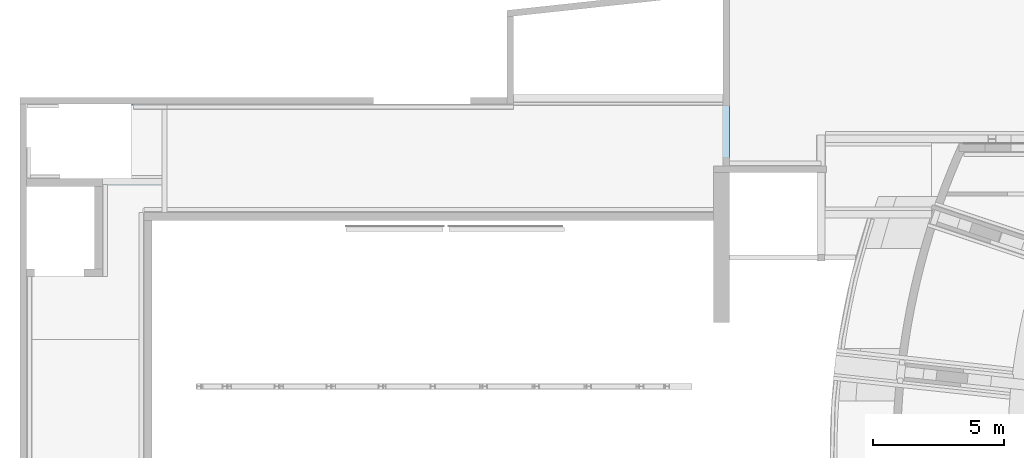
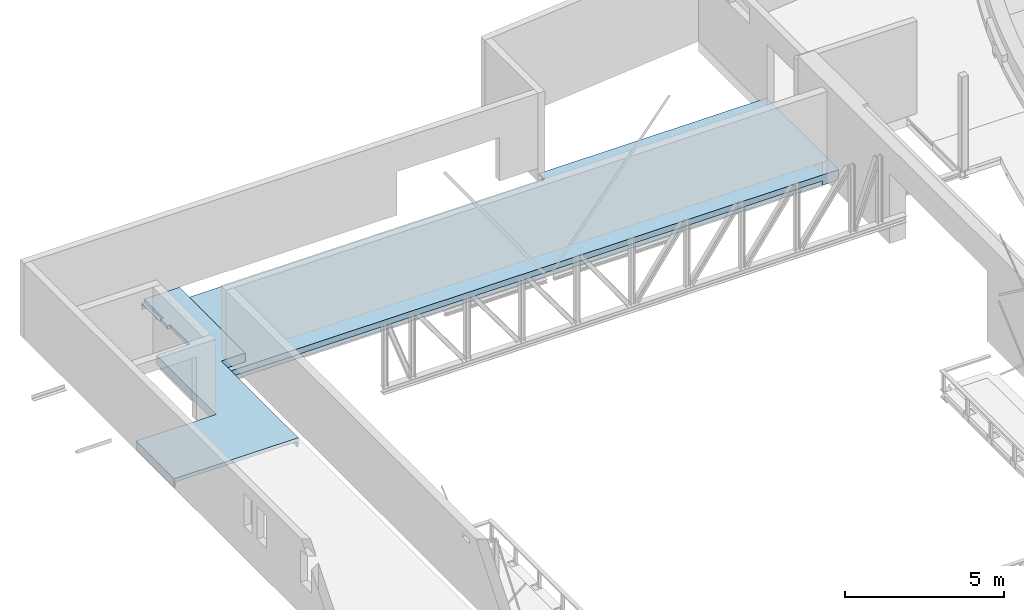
# One storey, part 62 of 68: 2 slabs.
"""IFC2X3 building model written with IfcOpenShell, lengths in millimetres."""

from ifc_helpers import new_model, entity, si_unit, converted_unit, derived_unit, direction, frame, origin, place, context, subcontext, project, spatial, faceted_brep, material, type_object, element, save


model = new_model("IFC2X3")

# Units and contexts
model_context = context("Model", 3, precision=0.01, world=origin(), true_north=direction((6.12303176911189e-17, 1.0)))
body_context = subcontext(model_context, "Body", "Model", "MODEL_VIEW")
ifc_project = project(units=[si_unit("LENGTHUNIT", "METRE", prefix="MILLI"), si_unit("AREAUNIT", "SQUARE_METRE", prefix="MILLI"), si_unit("VOLUMEUNIT", "CUBIC_METRE"), converted_unit("PLANEANGLEUNIT", "DEGREE", entity("IfcRatioMeasure", 0.0174532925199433), si_unit("PLANEANGLEUNIT", "RADIAN"), dimensions=[0, 0, 0, 0, 0, 0, 0]), si_unit("MASSUNIT", "GRAM", prefix="KILO"), derived_unit("MASSDENSITYUNIT", [(si_unit("MASSUNIT", "GRAM", prefix="KILO"), 1), (si_unit("LENGTHUNIT", "METRE"), -3)]), derived_unit("MOMENTOFINERTIAUNIT", [(si_unit("LENGTHUNIT", "METRE"), 4)]), si_unit("TIMEUNIT", "SECOND"), si_unit("FREQUENCYUNIT", "HERTZ"), si_unit("THERMODYNAMICTEMPERATUREUNIT", "DEGREE_CELSIUS"), derived_unit("THERMALTRANSMITTANCEUNIT", [(si_unit("MASSUNIT", "GRAM", prefix="KILO"), 1), (si_unit("THERMODYNAMICTEMPERATUREUNIT", "KELVIN"), -1), (si_unit("TIMEUNIT", "SECOND"), -3)]), derived_unit("VOLUMETRICFLOWRATEUNIT", [(si_unit("LENGTHUNIT", "METRE"), 3), (si_unit("TIMEUNIT", "SECOND"), -1)]), si_unit("ELECTRICCURRENTUNIT", "AMPERE"), si_unit("ELECTRICVOLTAGEUNIT", "VOLT"), si_unit("POWERUNIT", "WATT"), si_unit("FORCEUNIT", "NEWTON", prefix="KILO"), si_unit("ILLUMINANCEUNIT", "LUX"), si_unit("LUMINOUSFLUXUNIT", "LUMEN"), si_unit("LUMINOUSINTENSITYUNIT", "CANDELA"), derived_unit("USERDEFINED", [(si_unit("MASSUNIT", "GRAM", prefix="KILO"), -1), (si_unit("LENGTHUNIT", "METRE"), -2), (si_unit("TIMEUNIT", "SECOND"), 3), (si_unit("LUMINOUSFLUXUNIT", "LUMEN"), 1)]), derived_unit("LINEARVELOCITYUNIT", [(si_unit("LENGTHUNIT", "METRE"), 1), (si_unit("TIMEUNIT", "SECOND"), -1)]), si_unit("PRESSUREUNIT", "PASCAL"), derived_unit("USERDEFINED", [(si_unit("LENGTHUNIT", "METRE"), -2), (si_unit("MASSUNIT", "GRAM", prefix="KILO"), 1), (si_unit("TIMEUNIT", "SECOND"), -2)]), derived_unit("LINEARFORCEUNIT", [(si_unit("MASSUNIT", "GRAM", prefix="KILO"), 1), (si_unit("LENGTHUNIT", "METRE"), 1), (si_unit("TIMEUNIT", "SECOND"), -2), (si_unit("LENGTHUNIT", "METRE"), -1)]), derived_unit("PLANARFORCEUNIT", [(si_unit("MASSUNIT", "GRAM", prefix="KILO"), 1), (si_unit("LENGTHUNIT", "METRE"), 1), (si_unit("TIMEUNIT", "SECOND"), -2), (si_unit("LENGTHUNIT", "METRE"), -2)])], contexts=[model_context])

# Site, building, storey
site_placement = place(None, origin())
site = spatial("IfcSite", under=ifc_project, at=site_placement, Name="Theater aan de Parade", CompositionType="ELEMENT")
building_placement = place(site_placement, origin())
building = spatial("IfcBuilding", under=site, at=building_placement, Name="Theater aan de Parade", CompositionType="ELEMENT")
storey_placement = place(building_placement, frame((0.0, 0.0, 8750.0)))
storey = spatial("IfcBuildingStorey", under=building, at=storey_placement, Name="02 tweede verdieping", CompositionType="ELEMENT", Elevation=8750.0)

# Slabs
ifc_material = material(Name="00_PBT_MAT_beton t.p.g._C30/37")
slab_type_1 = type_object("IfcSlabType", Name="Floor:28_PBT_FL_druklaag_d=80 (=400)_C30/37", PredefinedType="FLOOR")
slab_1_placement = place(storey_placement, origin())
element("IfcSlab", 1, at=slab_1_placement, inside=storey, type_object=slab_type_1, material=ifc_material, Name="Floor:28_PBT_FL_druklaag_d=80 (=400)_C30/37", ObjectType="Floor:28_PBT_FL_druklaag_d=80 (=400)_C30/37", PredefinedType="FLOOR", context=body_context, shape_type="Brep", body=[
    faceted_brep([(29188.8975663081, 45697.4498995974, -400.0), (29188.8975663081, 45673.0, -400.0), (15053.8570025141, 45673.0, -400.0), (15053.8570025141, 45697.4498995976, -400.0), (19708.4338896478, 45697.4498995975, -400.0), (24448.2710047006, 45697.4498995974, -400.0), (37203.8581300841, 43350.0, -400.0), (37203.8581300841, 45780.0, -400.0), (29188.8975663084, 45780.0, -400.0), (29188.8975663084, 45943.249999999, -400.0), (37203.8581300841, 45943.249999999, -400.0), (37203.8581300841, 46100.0, -400.0), (37453.8581300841, 46100.0, -400.0), (37453.8581300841, 43400.0, -400.0), (37453.8581300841, 43370.0, -400.0), (37453.8581300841, 43350.0, -400.0), (37453.8581300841, 43100.0, -400.0), (37453.8581300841, 41573.3083270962, -400.0), (36853.8581300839, 41573.3083270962, -400.0), (36853.8581300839, 41598.8584274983, -400.0), (31403.9275510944, 41598.8584274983, -400.0), (25953.996972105, 41598.8584274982, -400.0), (19794.4908406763, 41598.8584274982, -400.0), (15053.8570025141, 41598.8584274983, -400.0), (15053.8570025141, 41623.308327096, -400.0), (36853.8581300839, 41623.308327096, -400.0), (36853.8581300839, 43100.0, -400.0), (36853.8581300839, 43350.0, -400.0), (15053.8570025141, 45723.0, 0.0), (15053.8570025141, 41573.3083270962, 0.0), (15735.0, 41573.3083270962, 0.0), (15935.0, 41573.3083270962, 0.0), (36853.8581300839, 41573.3083270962, 0.0), (37453.8581300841, 41573.3083270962, 0.0), (37453.8581300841, 43100.0, 0.0), (37453.8581300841, 43350.0, 0.0), (37453.8581300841, 43671.8945249, 0.0), (37453.8581300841, 45646.8945249, 0.0), (37453.8581300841, 46100.0, 0.0), (37203.8581300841, 46100.0, 0.0), (29188.8975663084, 46100.0, 0.0), (29188.8975663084, 45723.0, 0.0), (15935.0, 45723.0, 0.0), (15735.0, 45723.0, 0.0), (15053.8570025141, 41573.3083270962, -225.0), (36853.8581300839, 41573.3083270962, -225.0), (29188.8975663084, 45943.249999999, -136.0), (29188.8975663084, 45780.0, -80.0), (29188.8975663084, 45723.0, -80.0), (29188.8975663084, 46100.0, -85.0), (29188.8975663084, 45800.0, -85.0), (29188.8975663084, 45800.0, -109.0), (29188.8975663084, 45916.249999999, -109.0), (29188.8975663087, 45922.3965893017, -111.546000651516), (29188.8975663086, 45925.7959415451, -112.954058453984), (29188.8975663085, 45930.5689123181, -114.931087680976), (29188.8975663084, 45935.3418830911, -116.908116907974), (29188.8975663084, 45937.3189123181, -121.681087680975), (29188.8975663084, 45939.2959415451, -126.454058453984), (29188.8975663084, 45941.272970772, -131.227029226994), (37453.8581300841, 46100.0, -140.0), (37203.8581300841, 46100.0, -109.0), (37203.8581300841, 46100.0, -85.0), (37453.8581300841, 46100.0, -80.0), (36853.8581300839, 43350.0, -80.0), (36853.8581300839, 41623.308327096, -80.0), (15053.8570025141, 41623.308327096, -80.0), (15053.8570025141, 45673.0, -80.0), (29188.8975663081, 45673.0, -80.0), (37203.8581300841, 45780.0, -80.0), (37203.8581300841, 43350.0, -80.0), (37203.8581300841, 45943.249999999, -136.0), (37203.8581300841, 45941.272970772, -131.227029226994), (37203.8581300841, 45939.295941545, -126.454058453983), (37203.8581300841, 45937.318912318, -121.681087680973), (37203.8581300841, 45935.3418830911, -116.908116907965), (37203.8581300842, 45928.5431786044, -114.092001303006), (37203.8581300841, 45922.3965893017, -111.546000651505), (37203.8581300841, 45916.249999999, -109.0), (37203.8581300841, 45800.0, -109.0), (37203.8581300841, 45800.0, -85.0), (36853.8581300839, 41584.3083270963, -225.0), (36853.8581300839, 41590.672288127, -227.636038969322), (36853.8581300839, 41593.3083270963, -234.0), (36853.8581300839, 41593.3083270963, -387.0), (36853.8581300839, 41594.2520052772, -391.61285100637), (36853.8581300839, 41594.7544517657, -394.068890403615), (36853.8581300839, 41596.1793124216, -396.12811425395), (15053.8570025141, 41596.1794709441, -396.12801967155), (15053.8570025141, 41594.7538987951, -394.067595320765), (15053.8570025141, 41594.2518273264, -391.612900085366), (15053.8570025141, 41593.3083270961, -387.0), (15053.8570025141, 41593.3083270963, -234.0), (15053.8570025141, 41590.6722881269, -227.636038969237), (15053.8570025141, 41584.3083270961, -225.0), (15053.8570025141, 45723.0, -225.0), (15053.8570025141, 45712.0, -225.0), (15053.8570025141, 45705.6360389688, -227.636038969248), (15053.8570025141, 45703.0, -234.0), (15053.8570025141, 45703.0, -387.0), (15053.8570025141, 45702.0564997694, -391.612900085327), (15053.8570025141, 45701.5544283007, -394.067595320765), (15053.8570025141, 45700.1288561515, -396.128019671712), (29188.8975663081, 45723.0, -225.0), (29188.8975663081, 45703.0, -234.0), (29188.897566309, 45703.0, -387.0), (24535.0694769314, 45703.0, -387.0), (19794.4632397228, 45703.0, -387.0), (22164.5997493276, 45702.5570116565, -390.968795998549), (29188.8975663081, 45702.0564997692, -391.612900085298), (29188.8975663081, 45699.502163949, -397.033797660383), (21079.8791292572, 45701.0189674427, -395.209304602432), (29188.8975663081, 45701.5544283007, -394.067595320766), (29188.897566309, 45712.0, -225.0), (29188.8975663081, 45705.6360389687, -227.636038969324), (19794.4974536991, 41593.3083270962, -387.0), (24534.6622235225, 41593.3083270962, -387.0), (28323.9399512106, 41593.3083270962, -387.0), (32113.2176788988, 41593.3083270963, -387.0), (22874.1048670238, 41595.7113674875, -395.985257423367), (26683.4136397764, 41596.3410824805, -396.999079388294), (28324.1051483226, 41594.6380895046, -393.789932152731), (30396.7814533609, 41593.6627756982, -390.554506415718), (30910.9374021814, 41596.185446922, -396.762094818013), (26429.47623998, 41593.6438956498, -390.459459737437), (22164.5997491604, 41593.8512159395, -391.387399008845), (31939.8118971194, 41594.5960291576, -393.685738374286)], [[[0, 1, 2, 3, 4, 5]], [[6, 7, 8, 9, 10, 11, 12, 13, 14, 15, 16, 17, 18, 19, 20, 21, 22, 23, 24, 25, 26, 27]], [[28, 29, 30, 31, 32, 33, 34, 35, 36, 37, 38, 39, 40, 41, 42, 43]], [[18, 17, 33, 32, 31, 30, 29, 44, 45]], [[46, 9, 8, 47, 48, 41, 40, 49, 50, 51, 52, 53, 54, 55, 56, 57, 58, 59]], [[60, 12, 11, 61, 62, 49, 40, 39, 38, 63]], [[64, 65, 66, 67, 68, 48, 47, 69, 70]], [[69, 7, 6, 70]], [[61, 11, 10, 71, 72, 73, 74, 75, 76, 77, 78, 79, 80, 62]], [[70, 6, 27, 64]], [[65, 64, 27, 26, 25]], [[18, 45, 81, 82, 83, 84, 85, 86, 87, 19]], [[24, 23, 88, 89, 90, 91, 92, 93, 94, 44, 29, 28, 95, 96, 97, 98, 99, 100, 101, 102, 3, 2, 67, 66]], [[48, 103, 95, 28, 43, 42, 41]], [[65, 25, 24, 66]], [[67, 2, 1, 68]], [[104, 105, 106, 107, 99, 98]], [[108, 106, 109]], [[108, 100, 107]], [[3, 102, 4]], [[110, 0, 5]], [[4, 102, 111]], [[102, 101, 111]], [[108, 111, 100]], [[107, 106, 108]], [[106, 105, 109]], [[100, 99, 107]], [[110, 111, 112]], [[112, 108, 109]], [[4, 111, 5]], [[111, 101, 100]], [[108, 112, 111]], [[110, 5, 111]], [[103, 113, 96, 95]], [[94, 81, 45, 44]], [[104, 98, 97, 114]], [[97, 96, 113, 114]], [[83, 92, 91, 115, 116, 117, 118, 84]], [[22, 21, 119]], [[119, 88, 22]], [[120, 121, 119]], [[117, 122, 118]], [[121, 120, 123]], [[124, 125, 121]], [[85, 84, 118]], [[117, 124, 122]], [[122, 121, 126]], [[117, 116, 124]], [[122, 126, 85]], [[115, 90, 125]], [[22, 88, 23]], [[115, 125, 116]], [[89, 88, 119]], [[89, 125, 90]], [[121, 125, 119]], [[115, 91, 90]], [[89, 119, 125]], [[125, 124, 116]], [[124, 121, 122]], [[119, 21, 120]], [[85, 118, 122]], [[20, 123, 120]], [[20, 19, 87]], [[121, 123, 126]], [[20, 120, 21]], [[20, 87, 123]], [[126, 87, 86]], [[87, 126, 123]], [[85, 126, 86]], [[82, 93, 92, 83]], [[81, 94, 93, 82]], [[13, 12, 60, 63, 38, 37, 36, 35, 34, 33, 17, 16, 15, 14]], [[77, 76, 75, 56, 55, 54, 53, 52, 78]], [[56, 75, 74, 73, 72, 71, 46, 59, 58, 57]], [[46, 71, 10, 9]], [[50, 49, 62, 80]], [[50, 80, 79, 51]], [[51, 79, 78, 52]], [[1, 0, 110, 112, 109, 105, 104, 114, 113, 103, 48, 68]], [[7, 69, 47, 8]]]),
])
slab_type_2 = type_object("IfcSlabType", Name="Floor:28_PBT_FL_druklaag_d=140 (=340)_C30/37", PredefinedType="FLOOR")
slab_2_placement = place(storey_placement, origin())
element("IfcSlab", 2, at=slab_2_placement, inside=storey, type_object=slab_type_2, material=ifc_material, Name="Floor:28_PBT_FL_druklaag_d=140 (=340)_C30/37", ObjectType="Floor:28_PBT_FL_druklaag_d=140 (=340)_C30/37", PredefinedType="FLOOR", context=body_context, shape_type="Brep", body=[
    faceted_brep([(10554.1125537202, 36720.0, 165.0), (10554.1125537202, 39120.0, 165.0), (10604.1125537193, 39120.0, 165.0), (10604.1125537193, 36720.0, 165.0), (10579.6626541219, 36720.0, 165.0), (15053.857002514, 36720.0, 505.0), (15053.8570025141, 41573.308327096, 505.0), (15935.0, 41573.308327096, 505.0), (15935.0, 45723.0, 505.0), (14662.620676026, 45723.0, 505.0), (14662.620676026, 44513.0, 505.0), (14562.620676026, 44513.0, 505.0), (14562.620676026, 44080.0, 505.0), (14662.620676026, 44080.0, 505.0), (14662.620676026, 42870.0, 505.0), (13454.8570025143, 42870.0, 505.0), (13454.8570025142, 39120.0, 505.0), (10554.1125537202, 39120.0, 505.0), (10554.1125537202, 36720.0, 505.0), (15053.857002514, 36720.0, 165.0), (15053.8570025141, 41573.308327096, 165.0), (15053.857002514, 36720.0, 340.0), (10554.1125537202, 36720.0, 340.0), (10604.1125537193, 36720.0, 365.0), (15003.8570025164, 36720.0, 365.0), (15003.8570025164, 36720.0, 165.0), (15028.306902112, 36720.0, 165.0), (13454.8570025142, 39120.0, 365.0), (10604.1125537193, 39120.0, 365.0), (13454.8570025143, 42870.0, 165.0), (13454.8570025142, 39120.0, 165.0), (15735.0, 41573.308327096, 165.0), (15935.0, 41573.308327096, 165.0), (14562.620676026, 42870.0, 165.0), (14662.620676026, 42870.0, 365.0), (14562.620676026, 42870.0, 365.0), (15935.0, 45723.0, 165.0), (14562.620676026, 42890.0, 365.0), (14562.620676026, 42890.0, 165.0), (15735.0, 45723.0, 165.0), (14562.620676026, 45723.0, 165.0), (14562.620676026, 45723.0, 395.0), (14662.620676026, 45723.0, 395.0), (14562.620676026, 45673.0, 365.0), (15762.620676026, 45673.0, 365.0), (15762.620676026, 42890.0, 365.0), (14662.620676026, 42890.0, 365.0), (14662.620676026, 44080.0, 365.0), (14562.620676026, 44080.0, 365.0), (15762.620676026, 45673.0, 165.0), (15762.620676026, 42890.0, 165.0), (14562.620676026, 45673.0, 165.0), (14562.620676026, 44513.0, 395.0), (14662.620676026, 44513.0, 395.0), (15003.8570025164, 41730.0, 365.0), (13504.8570025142, 39120.0, 365.0), (13504.8570025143, 42630.0, 365.0), (15735.0, 42630.0, 365.0), (15735.0, 41730.0, 365.0), (15003.8570025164, 41730.0, 165.0), (13504.8570025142, 39120.0, 165.0), (13504.8570025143, 42630.0, 165.0), (15735.0, 42630.0, 165.0), (15735.0, 41730.0, 165.0)], [[[0, 1, 2, 3, 4]], [[5, 6, 7, 8, 9, 10, 11, 12, 13, 14, 15, 16, 17, 18]], [[19, 20, 6, 5, 21]], [[5, 18, 22, 0, 4, 3, 23, 24, 25, 26, 19, 21]], [[1, 0, 22, 18, 17]], [[17, 16, 27, 28, 2, 1]], [[29, 30, 27, 16, 15]], [[20, 31, 32, 7, 6]], [[33, 29, 15, 14, 34, 35]], [[32, 36, 8, 7]], [[33, 35, 37, 38]], [[36, 39, 40, 41, 42, 9, 8]], [[43, 44, 45, 46, 47, 48]], [[45, 44, 49, 50]], [[44, 43, 51, 49]], [[45, 50, 38, 37, 46]], [[52, 53, 42, 41]], [[53, 52, 11, 10]], [[42, 53, 10, 9]], [[35, 34, 46, 37]], [[47, 13, 12, 48]], [[13, 47, 46, 34, 14]], [[54, 24, 23, 28, 27, 55, 56, 57, 58]], [[24, 54, 59, 25]], [[28, 23, 3, 2]], [[60, 55, 27, 30]], [[56, 55, 60, 61]], [[58, 57, 62, 63]], [[54, 58, 63, 59]], [[57, 56, 61, 62]], [[48, 12, 11, 52, 41, 40, 51, 43]], [[20, 19, 26, 25, 59, 63, 62, 61, 60, 30, 29, 33, 38, 50, 49, 51, 40, 39, 36, 32, 31]]]),
])

save(model, "model.ifc")
